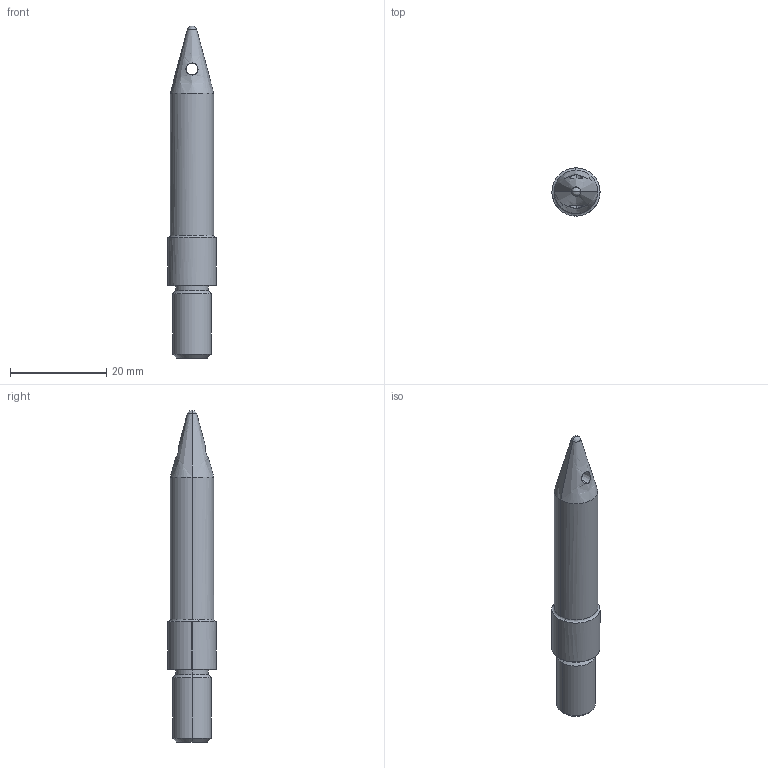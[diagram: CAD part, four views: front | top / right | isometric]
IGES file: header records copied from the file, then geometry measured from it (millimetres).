
Global section: file name: E:\UnigraphicsGraphicData\MISUMI_PRESS-PARTS\IGES\3d_slpsh10-p9.00-b30-t10_02957_r00.igs; native system: NX V5.0; preprocessor: UGS NX IGES V5.0; author: MISUMI; date: 20110105.162801; units: millimetre
Bounding box: 10 x 10 x 68.93 mm (x, y, z)
Surface area: 1903.4 mm2 (no closed solid volume)
Topology: 0 solids, 0 shells, 24 faces, 148 edges, 146 vertices
Faces by surface type: bspline 24
